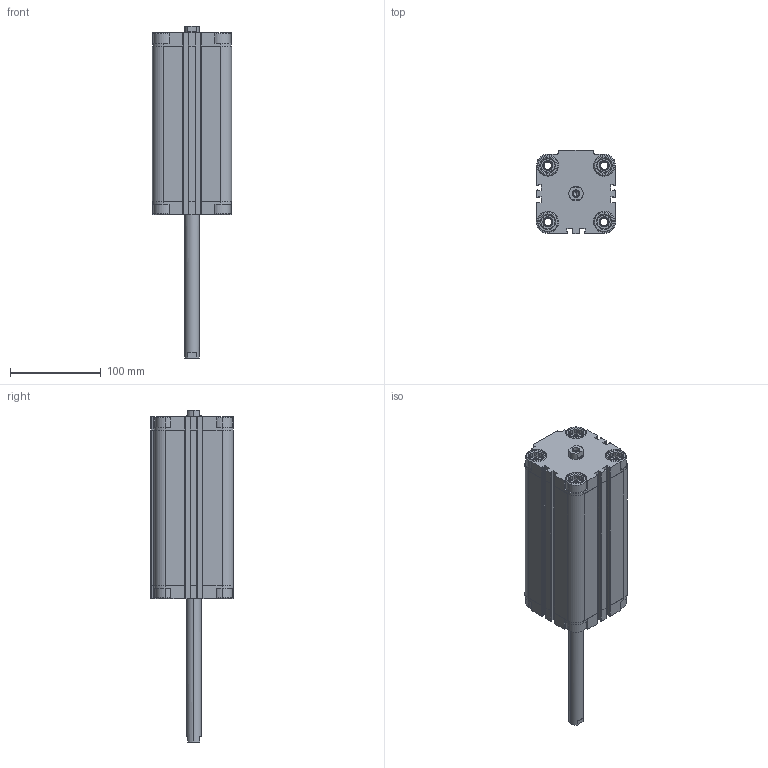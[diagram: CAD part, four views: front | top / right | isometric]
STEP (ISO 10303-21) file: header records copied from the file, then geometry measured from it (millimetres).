
FILE_DESCRIPTION (( 'STEP AP203' ), '1' );
FILE_NAME ('CDVU63-150F-P.STEP', '2020-07-24T18:39:29', ( '' ), ( '' ), 'SwSTEP 2.0', 'SolidWorks 2019', '' );
FILE_SCHEMA (( 'CONFIG_CONTROL_DESIGN' ));
Length unit declared in the file: millimetre
Products named in the file (1): CDVU63-150F-P
Bounding box: 87 x 91 x 365 mm (x, y, z)
Volume: 930326.3 mm3; surface area: 206075.8 mm2
Topology: 2 solids, 2 shells, 622 faces, 1668 edges, 1092 vertices
Faces by surface type: plane 370, cylinder 188, cone 64
Entity records: 19635 total; most frequent: CARTESIAN_POINT 3951, ORIENTED_EDGE 3320, DIRECTION 3170, EDGE_CURVE 1660, VERTEX_POINT 1092, AXIS2_PLACEMENT_3D 1079, VECTOR 1012, LINE 1012
